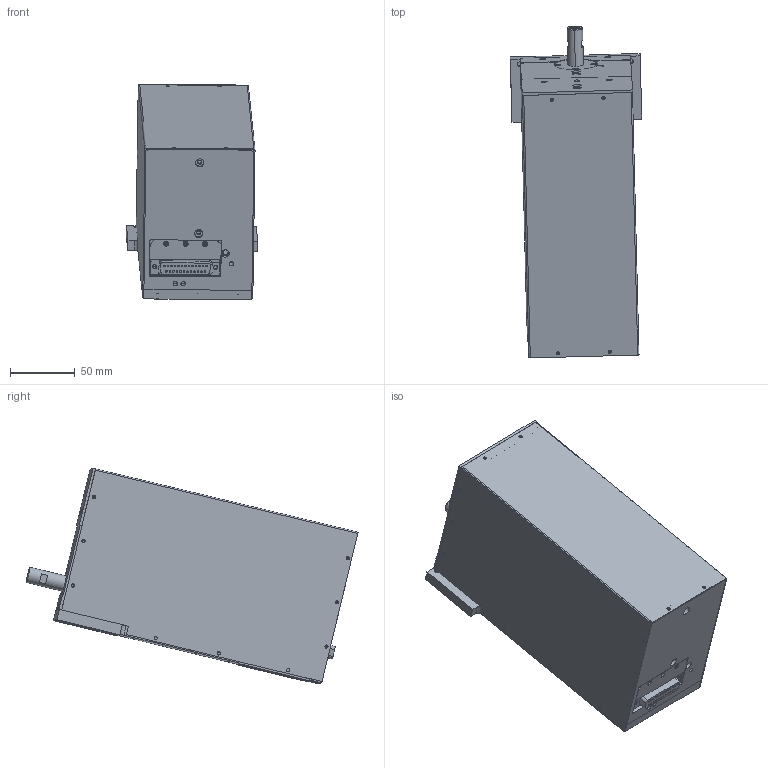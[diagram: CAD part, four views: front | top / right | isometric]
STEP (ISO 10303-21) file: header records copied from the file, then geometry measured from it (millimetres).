
FILE_DESCRIPTION (( 'STEP AP203' ), '1' );
FILE_NAME ('LAL300-030-XX-2STP.STEP', '2019-03-12T18:24:39', ( '' ), ( '' ), 'SwSTEP 2.0', 'SolidWorks 2018', '' );
FILE_SCHEMA (( 'CONFIG_CONTROL_DESIGN' ));
Length unit declared in the file: millimetre
Products named in the file (10): 22135-00_EPART; ~~~~~~~~~PART1; 110008-01_B; LAL300-030-XX-2STP; DB25 3D; 110007-01_B; 23054-00_B; 11522-01_B1; 22134-00_C; 21528-30_B
Assembly tree (9 placements, depth 3):
  LAL300-030-XX-2STP
    22135-00_EPART
      ~~~~~~~~~PART1
    DB25 3D
    11522-01_B1
    21528-30_B
    110008-01_B
    110007-01_B
    22134-00_C
    23054-00_B
Bounding box: 101.29 x 255.72 x 166.1 mm (x, y, z)
Volume: 341598.9 mm3; surface area: 243622.2 mm2
Topology: 8 solids, 8 shells, 1639 faces, 3736 edges, 2117 vertices
Faces by surface type: cone 1036, cylinder 380, plane 223
Entity records: 46572 total; most frequent: DIRECTION 8732, CARTESIAN_POINT 7587, ORIENTED_EDGE 7328, EDGE_CURVE 3664, AXIS2_PLACEMENT_3D 3424, VERTEX_POINT 2117, EDGE_LOOP 1919, VECTOR 1884
